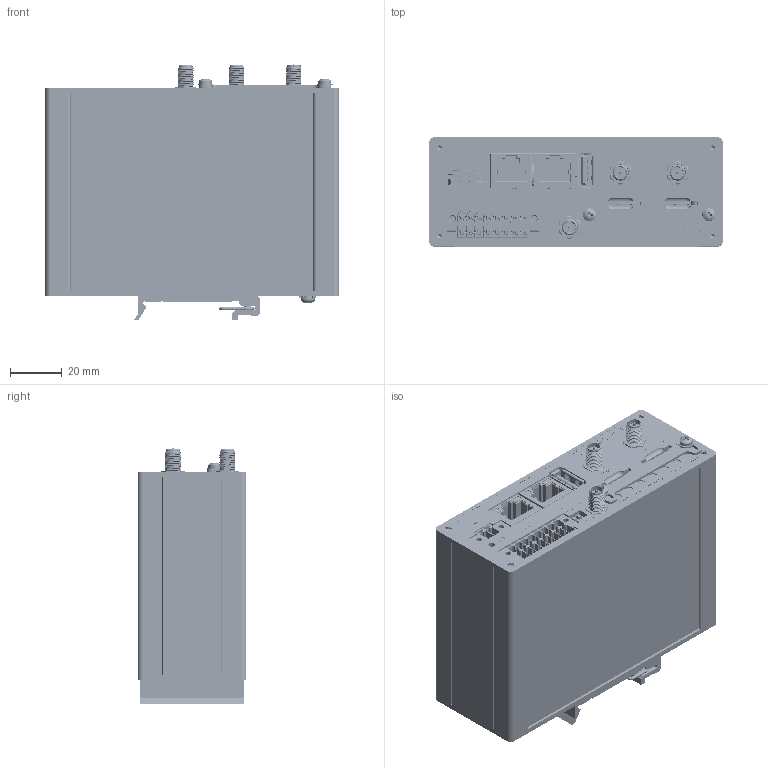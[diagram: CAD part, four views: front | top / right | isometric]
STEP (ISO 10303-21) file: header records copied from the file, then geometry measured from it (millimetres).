
FILE_DESCRIPTION (( 'STEP AP203' ), '1' );
FILE_NAME ('VMC-2021-29-1_Box ICR-2800 - metal.STEP', '2021-10-19T08:24:17', ( '' ), ( '' ), 'SwSTEP 2.0', 'SolidWorks 2021', '' );
FILE_SCHEMA (( 'CONFIG_CONTROL_DESIGN' ));
Length unit declared in the file: millimetre
Products named in the file (25): DINKLE_0159-11XX; DINKLE_0159-11XX_6; DINKLE_0159-11XX_7; VMC-2021-29-1_Box ICR-2800 - metal; countersunk flat head cross recess screw_iso_ISO 7046-1 - M2.5 x 5 - Z - 5N; DINKLE_0159-11XX_8; pan head cross recess screw_iso_ISO 7045 - M2.5 x 6 - Z - 6N; VMC-2016-55-1-01_CKD-SBD40 profil; plain washer 10673 type snl_iso_ISO 10673-2.75-S; VMC-2021-09-1-02_ICR-2734 - rear part; Zemnící šroub___; VMC-2016-55-1-02_CKD-SBD40 kolik; dinkle_0159-1116; VMC-2021-08-1-02_ICR-2734 - SIM cover; VMC-2017-06-1_CKK2 box - støíbrný; DINKLE_0159-11XX_2; DINKLE_0159-11XX_4; hex socket head screws_iso_ISO 14586 - ST2.9 x 13-R-N; ICR-2831_setava desek_upravená verze_v2-part; VMC-2016-55-1_CKD-SBD40 v2; DINKLE_0159-11XX_5; DINKLE_0159-11XX_3; VMC-2021-29-1-01_ICR-2800 - front part; VMC-2016-55-1-03_CKD-SBD40 pero; DINKLE_0159-11XX_9
Assembly tree (36 placements, depth 3):
  VMC-2021-29-1_Box ICR-2800 - metal
    VMC-2017-06-1_CKK2 box - støíbrný
    VMC-2021-09-1-02_ICR-2734 - rear part
    VMC-2021-29-1-01_ICR-2800 - front part
    VMC-2021-08-1-02_ICR-2734 - SIM cover
    VMC-2016-55-1_CKD-SBD40 v2
      VMC-2016-55-1-01_CKD-SBD40 profil
      VMC-2016-55-1-02_CKD-SBD40 kolik
      VMC-2016-55-1-03_CKD-SBD40 pero
    pan head cross recess screw_iso_ISO 7045 - M2.5 x 6 - Z - 6N  x2
    plain washer 10673 type snl_iso_ISO 10673-2.75-S  x2
    hex socket head screws_iso_ISO 14586 - ST2.9 x 13-R-N  x8
    countersunk flat head cross recess screw_iso_ISO 7046-1 - M2.5 x 5 - Z - 5N  x4
    ICR-2831_setava desek_upravená verze_v2-part
    dinkle_0159-1116
      DINKLE_0159-11XX_5
      DINKLE_0159-11XX_9
      DINKLE_0159-11XX_7
      DINKLE_0159-11XX_4
      DINKLE_0159-11XX_6
      DINKLE_0159-11XX_8
      DINKLE_0159-11XX
      DINKLE_0159-11XX_2
      DINKLE_0159-11XX_3
    Zemnící šroub___
Bounding box: 113.2 x 42 x 98.63 mm (x, y, z)
Volume: 70477.6 mm3; surface area: 146920 mm2
Topology: 34 solids, 735 shells, 8282 faces, 31775 edges, 23801 vertices
Faces by surface type: plane 5440, cylinder 1676, bspline 776, cone 313, torus 73, sphere 4
Entity records: 399060 total; most frequent: CARTESIAN_POINT 149851, ORIENTED_EDGE 47829, DIRECTION 46187, EDGE_CURVE 30910, VERTEX_POINT 23346, VECTOR 21383, LINE 21383, AXIS2_PLACEMENT_3D 12402
